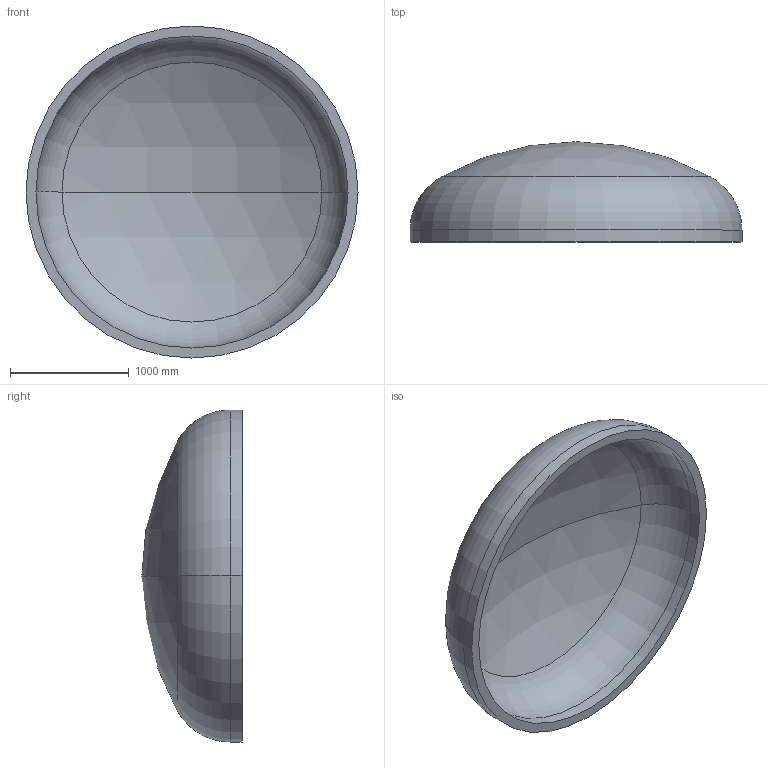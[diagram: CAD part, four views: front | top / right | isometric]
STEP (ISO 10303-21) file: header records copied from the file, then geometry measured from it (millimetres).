
FILE_DESCRIPTION (( 'STEP AP203' ), '1' );
FILE_NAME ('DIN 28013 Korbbogenform_-_Boden DIN 28013 - 2800 x 100 - I - s=84.step', '2016-07-01T17:13:20', ( '' ), ( '' ), 'SwSTEP 2.0', 'SolidWorks 2013', '' );
FILE_SCHEMA (( 'CONFIG_CONTROL_DESIGN' ));
Length unit declared in the file: millimetre
Products named in the file (1): DIN 28013 Korbbogenform_-_Boden DIN 28013 - 2800 x 100 - I - s=84
Bounding box: 2800 x 845.68 x 2800 mm (x, y, z)
Volume: 760114669.7 mm3; surface area: 18829476 mm2
Topology: 1 solids, 1 shells, 13 faces, 24 edges, 14 vertices
Faces by surface type: torus 4, cylinder 4, sphere 4, plane 1
Entity records: 407 total; most frequent: DIRECTION 72, CARTESIAN_POINT 52, ORIENTED_EDGE 48, AXIS2_PLACEMENT_3D 34, EDGE_CURVE 24, CIRCLE 20, EDGE_LOOP 14, VERTEX_POINT 14
